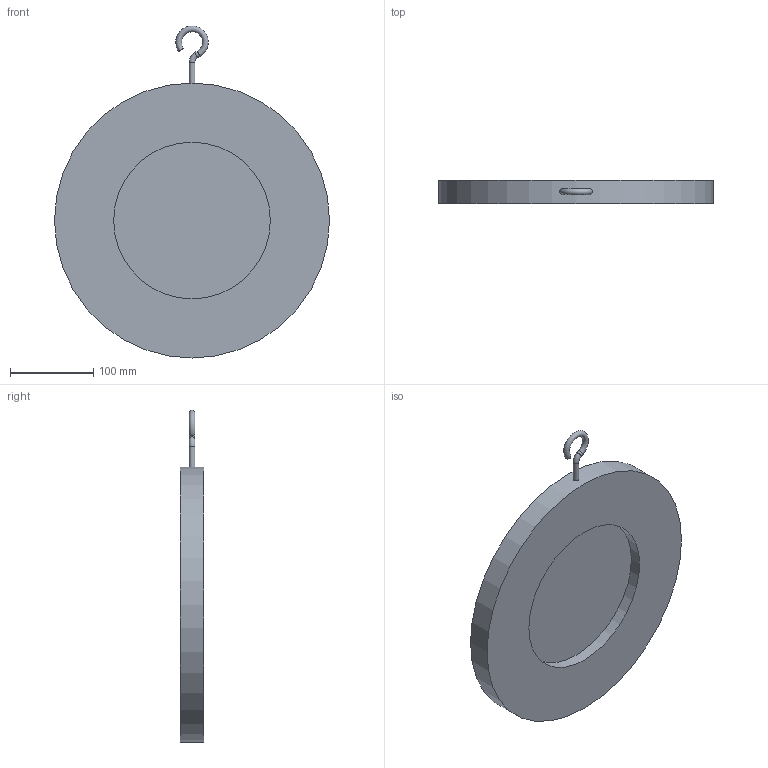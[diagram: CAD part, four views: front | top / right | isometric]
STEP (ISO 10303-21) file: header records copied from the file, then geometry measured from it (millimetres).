
FILE_DESCRIPTION(('STEP AP203'), '1');
FILE_NAME('孰囡囗 钺疣蝽 钿眍耱忸瘅囹 戾骠豚眦邂 008C.Y DN250', '', ('UNSPECIFIED'), ('UNSPECIFIED'), 'ASCON STEP Converter 1.6', 'ASCON Math Kernel', '');
FILE_SCHEMA(('CONFIG_CONTROL_DESIGN'));
Length unit declared in the file: millimetre
Bounding box: 330 x 28 x 398.5 mm (x, y, z)
Volume: 1651378.3 mm3; surface area: 225056.3 mm2
Topology: 1 solids, 1 shells, 32 faces, 72 edges, 47 vertices
Faces by surface type: plane 17, cylinder 12, torus 2, cone 1
Full cylindrical faces by diameter (mm): 7 x2, 188 x1, 330 x1
Entity records: 1432 total; most frequent: CARTESIAN_POINT 433, DIRECTION 152, ORIENTED_EDGE 130, EDGE_CURVE 65, AXIS2_PLACEMENT_3D 59, VERTEX_POINT 47, EDGE_LOOP 44, LINE 34
